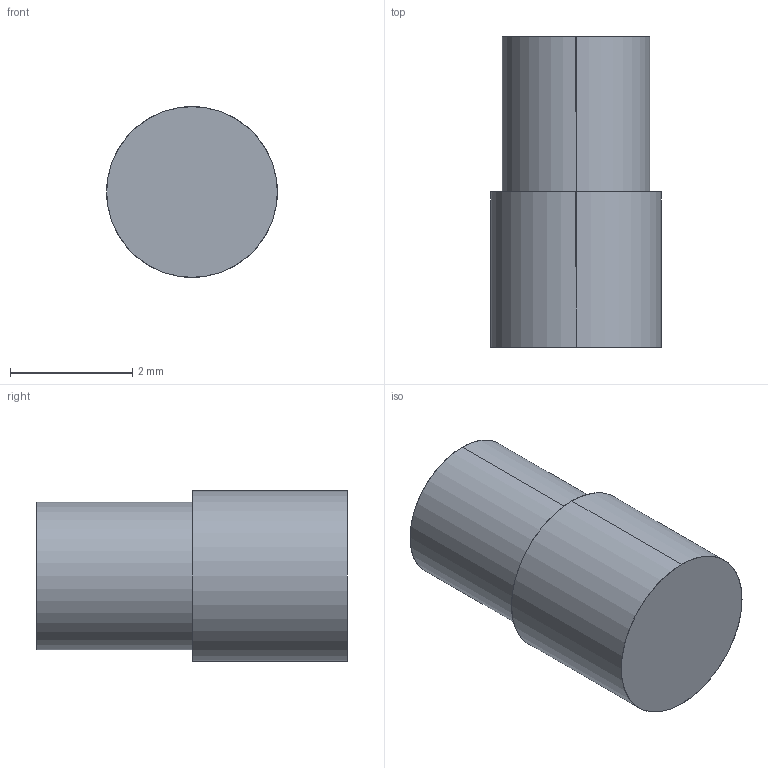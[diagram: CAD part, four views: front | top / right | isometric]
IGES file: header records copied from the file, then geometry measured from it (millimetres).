
Start section: SolidWorks IGES file using analytic representation for surfaces
Global section: file name: C:\Users\ALIENWARE\Documents\PowerBank\light peg 149.IGS; native system: SolidWorks 2014; preprocessor: SolidWorks 2014; author: ALIENWARE; date: 150203.114522; units: inch
Bounding box: 2.79 x 5.08 x 2.79 mm (x, y, z)
Surface area: 53.8 mm2 (no closed solid volume)
Topology: 0 solids, 0 shells, 7 faces, 144 edges, 144 vertices
Faces by surface type: revolution 4, bspline 3
